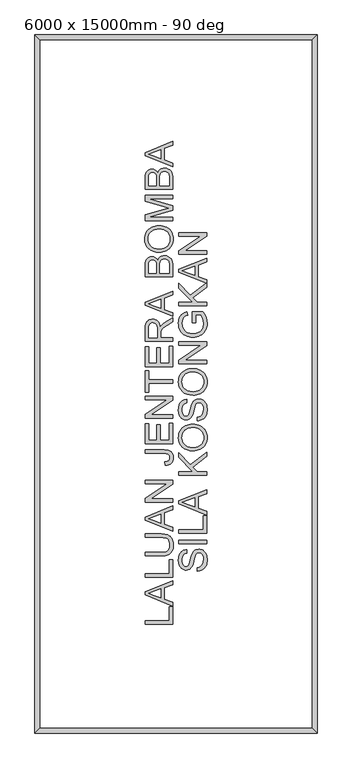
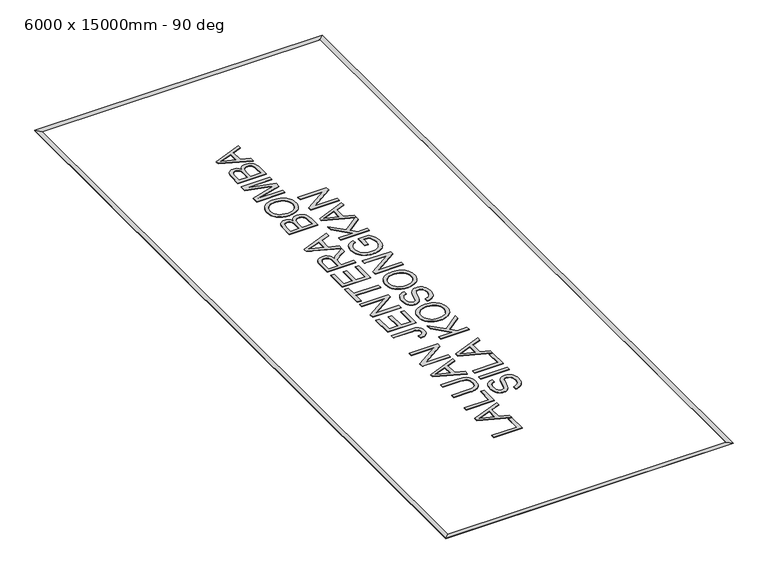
"""IFC4 building model written with IfcOpenShell, lengths in millimetres: proxy geometry, FAPS-Perpendicular : 6000 x 15000mm - 90 deg."""

from ifc_helpers import new_model, si_unit, origin, origin_with_axes, place, context, project, spatial, polyline, outline, extrude, faceted_brep, source, transform, mapped, element, save


def proxy_6000_x_15000mm_90_deg_22f1d21b(model_context):
    return source(origin(), model_context, "Body", "SolidModel", [
        extrude(outline(polyline([(2934.0755465, -12693.9051607), (2331.3376856, -12693.9051607), (2331.3376856, -12618.5629281), (2858.7333139, -12618.5629281), (2858.7333139, -12317.1939976), (2934.0755465, -12317.1939976), (2934.0755465, -12693.9051607)])), origin_with_axes(), (0.0, 0.0, 1.0), 10.0),
        extrude(outline(polyline([(2934.0755465, -12302.6258706), (2331.3376856, -12062.0310458), (2331.3376856, -11997.8724258), (2934.0755465, -11757.277601), (2934.0755465, -11836.8872647), (2745.7199649, -11905.901927), (2745.7199649, -12154.1486974), (2934.0755465, -12223.0162069), (2934.0755465, -12302.6258706)]), holes=[polyline([(2670.3777323, -12126.4839713), (2670.3777323, -11933.4195003), (2522.1948647, -11987.7188828), (2406.6799182, -12029.9517358), (2509.2454184, -12067.4756993), (2670.3777323, -12126.4839713)])]), origin_with_axes(), (0.0, 0.0, 1.0), 10.0),
        extrude(outline(polyline([(2934.0755465, -11676.7850204), (2331.3376856, -11676.7850204), (2331.3376856, -11601.4427878), (2858.7333139, -11601.4427878), (2858.7333139, -11300.0738574), (2934.0755465, -11300.0738574), (2934.0755465, -11676.7850204)])), origin_with_axes(), (0.0, 0.0, 1.0), 10.0),
        extrude(outline(polyline([(2331.3376856, -10819.7671245), (2331.3376856, -10744.4248919), (2679.0597474, -10744.4248919), (2760.490427, -10749.5384516), (2794.1838193, -10755.9304013), (2823.1959131, -10764.8791308), (2848.625756, -10777.1571924), (2871.5723955, -10793.5371382), (2892.0358315, -10814.0189683), (2910.016064, -10838.6026826), (2924.6623659, -10867.3158724), (2935.1240102, -10900.1861286), (2941.4009967, -10937.2134514), (2943.4933255, -10978.3978408), (2941.6723097, -11018.5659561), (2936.209262, -11054.8989017), (2927.1041827, -11087.3966774), (2914.3570715, -11116.0592834), (2898.1564682, -11140.8913181), (2878.6909121, -11161.89738), (2855.9604033, -11179.0774692), (2829.9649418, -11192.4315856), (2799.8124138, -11202.4425744), (2764.6107054, -11209.5932807), (2724.3598166, -11213.8837044), (2679.0597474, -11215.3138457), (2331.3376856, -11215.3138457), (2331.3376856, -11139.9716131), (2676.410997, -11139.9716131), (2744.1196783, -11136.2560049), (2791.2637559, -11125.1091805), (2808.6415817, -11116.3443919), (2823.913283, -11104.9124589), (2837.0788599, -11090.8133815), (2848.1383124, -11074.0471595), (2863.1478978, -11033.8008693), (2868.1510929, -10985.4611751), (2865.6770865, -10943.9364949), (2858.2550673, -10908.8313555), (2845.8850352, -10880.1457569), (2828.5669902, -10857.8796992), (2804.2132022, -10841.2054477), (2770.7359406, -10829.2952682), (2728.1352056, -10822.1491604), (2676.410997, -10819.7671245), (2331.3376856, -10819.7671245)])), origin_with_axes(), (0.0, 0.0, 1.0), 10.0),
        extrude(outline(polyline([(2934.0755465, -10682.7678695), (2331.3376856, -10442.1730446), (2331.3376856, -10378.0144247), (2934.0755465, -10137.4195998), (2934.0755465, -10217.0292636), (2745.7199649, -10286.0439259), (2745.7199649, -10534.2906962), (2934.0755465, -10603.1582057), (2934.0755465, -10682.7678695)]), holes=[polyline([(2670.3777323, -10506.6259702), (2670.3777323, -10313.5614991), (2522.1948647, -10367.8608816), (2406.6799182, -10410.0937346), (2509.2454184, -10447.6176982), (2670.3777323, -10506.6259702)])]), origin_with_axes(), (0.0, 0.0, 1.0), 10.0),
        extrude(outline(polyline([(2934.0755465, -10056.9270193), (2331.3376856, -10056.9270193), (2331.3376856, -9976.2872859), (2808.8485153, -9661.3802981), (2331.3376856, -9661.3802981), (2331.3376856, -9586.0380655), (2934.0755465, -9586.0380655), (2934.0755465, -9666.6777988), (2456.4175639, -9981.5847867), (2934.0755465, -9981.5847867), (2934.0755465, -10056.9270193)])), origin_with_axes(), (0.0, 0.0, 1.0), 10.0),
        extrude(outline(polyline([(2764.8498287, -9256.4157978), (2755.137744, -9181.0735652), (2785.0925355, -9178.4156177), (2809.9153731, -9173.2376787), (2829.6062569, -9165.5397479), (2844.1651868, -9155.3218255), (2854.6590208, -9142.7402613), (2862.1546164, -9127.9514051), (2866.6519738, -9110.9552569), (2868.1510929, -9091.7518167), (2864.7481845, -9063.9215438), (2854.5394591, -9040.174761), (2838.4630159, -9021.8542376), (2817.456954, -9010.302743), (2787.0515071, -9004.1775078), (2742.776909, -9002.1357627), (2331.3376856, -9002.1357627), (2331.3376856, -8926.7935301), (2741.4525338, -8926.7935301), (2808.5358156, -8931.3368727), (2835.6625142, -8937.016051), (2858.5125847, -8944.9669007), (2877.9965348, -8955.3871582), (2895.0248727, -8968.4745601), (2909.5975982, -8984.2291066), (2921.7147114, -9002.6507975), (2938.048672, -9045.5642322), (2943.4933255, -9095.2834839), (2940.6836268, -9132.4119742), (2932.2545306, -9164.9235456), (2918.2060369, -9192.8181979), (2898.5381457, -9216.0959311), (2873.3244335, -9234.3428781), (2842.6384766, -9247.1451715), (2806.480275, -9254.5028114), (2764.8498287, -9256.4157978)])), origin_with_axes(), (0.0, 0.0, 1.0), 10.0),
        extrude(outline(polyline([(2934.0755465, -8794.944623), (2331.3376856, -8794.944623), (2331.3376856, -8361.7267855), (2406.6799182, -8361.7267855), (2406.6799182, -8719.6023904), (2585.6177206, -8719.6023904), (2585.6177206, -8380.5623437), (2660.9599532, -8380.5623437), (2660.9599532, -8719.6023904), (2858.7333139, -8719.6023904), (2858.7333139, -8352.3090064), (2934.0755465, -8352.3090064), (2934.0755465, -8794.944623)])), origin_with_axes(), (0.0, 0.0, 1.0), 10.0),
        extrude(outline(polyline([(2934.0755465, -8239.2956575), (2331.3376856, -8239.2956575), (2331.3376856, -8158.6559242), (2808.8485153, -7843.7489363), (2331.3376856, -7843.7489363), (2331.3376856, -7768.4067037), (2934.0755465, -7768.4067037), (2934.0755465, -7849.046437), (2456.4175639, -8163.9534249), (2934.0755465, -8163.9534249), (2934.0755465, -8239.2956575)])), origin_with_axes(), (0.0, 0.0, 1.0), 10.0),
        extrude(outline(polyline([(2934.0755465, -7485.8733314), (2406.6799182, -7485.8733314), (2406.6799182, -7683.646692), (2331.3376856, -7683.646692), (2331.3376856, -7212.7577382), (2406.6799182, -7212.7577382), (2406.6799182, -7410.5310988), (2934.0755465, -7410.5310988), (2934.0755465, -7485.8733314)])), origin_with_axes(), (0.0, 0.0, 1.0), 10.0),
        extrude(outline(polyline([(2934.0755465, -7127.9977265), (2331.3376856, -7127.9977265), (2331.3376856, -6694.779889), (2406.6799182, -6694.779889), (2406.6799182, -7052.6554939), (2585.6177206, -7052.6554939), (2585.6177206, -6713.6154471), (2660.9599532, -6713.6154471), (2660.9599532, -7052.6554939), (2858.7333139, -7052.6554939), (2858.7333139, -6685.3621099), (2934.0755465, -6685.3621099), (2934.0755465, -7127.9977265)])), origin_with_axes(), (0.0, 0.0, 1.0), 10.0),
        extrude(outline(polyline([(2934.0755465, -6572.348761), (2331.3376856, -6572.348761), (2331.3376856, -6312.6240724), (2335.4027816, -6242.8184638), (2347.5980698, -6192.0323543), (2357.2917603, -6172.4334411), (2370.1124479, -6154.913061), (2386.0601323, -6139.4712143), (2405.1348138, -6126.1079008), (2426.3110211, -6115.3243598), (2448.5632833, -6107.6218306), (2471.8916003, -6103.000313), (2496.2959722, -6101.4598071), (2527.2532421, -6104.0119885), (2555.6721262, -6111.6685325), (2581.5526246, -6124.4294392), (2604.8947372, -6142.2947086), (2624.953503, -6165.4942669), (2640.9839609, -6194.2580404), (2652.986111, -6228.5860291), (2660.9599532, -6268.4782329), (2677.1835492, -6243.6461983), (2693.186416, -6225.6567687), (2729.7906745, -6194.7914693), (2770.7359406, -6164.5883575), (2934.0755465, -6064.0829964), (2934.0755465, -6151.6389113), (2809.1428209, -6230.0713526), (2726.4429484, -6286.7251799), (2702.3282836, -6307.7864241), (2687.3738805, -6326.5300118), (2673.0264827, -6362.3617181), (2670.3777323, -6406.0660991), (2670.3777323, -6497.0065284), (2934.0755465, -6497.0065284), (2934.0755465, -6572.348761)]), holes=[polyline([(2595.0354997, -6497.0065284), (2595.0354997, -6328.3694218), (2592.3683552, -6279.9377571), (2584.3669218, -6242.3586113), (2570.4977706, -6214.0684859), (2550.2274727, -6193.5038823), (2525.7081377, -6180.9775004), (2499.0918754, -6176.8020397), (2479.8240559, -6178.793201), (2462.340464, -6184.7666849), (2446.6410999, -6194.7224914), (2432.7259634, -6208.6606205), (2421.3308186, -6226.902969), (2413.1914295, -6249.7714335), (2408.307796, -6277.2660141), (2406.6799182, -6309.3867108), (2406.6799182, -6497.0065284), (2595.0354997, -6497.0065284)])]), origin_with_axes(), (0.0, 0.0, 1.0), 10.0),
        extrude(outline(polyline([(2934.0755465, -6039.8027847), (2331.3376856, -5799.2079599), (2331.3376856, -5735.0493399), (2934.0755465, -5494.4545151), (2934.0755465, -5574.0641789), (2745.7199649, -5643.0788411), (2745.7199649, -5891.3256115), (2934.0755465, -5960.193121), (2934.0755465, -6039.8027847)]), holes=[polyline([(2670.3777323, -5863.6608855), (2670.3777323, -5670.5964144), (2522.1948647, -5724.8957969), (2406.6799182, -5767.1286499), (2509.2454184, -5804.6526134), (2670.3777323, -5863.6608855)])]), origin_with_axes(), (0.0, 0.0, 1.0), 10.0),
        extrude(outline(polyline([(2934.0755465, -5178.5174576), (2331.3376856, -5178.5174576), (2331.3376856, -4948.5176343), (2335.7706636, -4885.2603252), (2349.0695977, -4835.8721673), (2359.1265718, -4815.7950074), (2371.5655817, -4798.01711), (2386.3866276, -4782.5384751), (2403.5897094, -4769.3591026), (2441.2608257, -4751.3144907), (2480.6977756, -4745.2996201), (2516.9893344, -4750.3579975), (2551.1103895, -4765.5331299), (2580.9640134, -4790.9353816), (2604.4532788, -4826.6751174), (2614.1469694, -4803.9354116), (2626.7469277, -4783.9824119), (2642.2531538, -4766.8161183), (2660.6656476, -4752.4365308), (2681.4233892, -4741.0735757), (2703.9653585, -4732.9571792), (2728.2915554, -4728.0873413), (2754.40198, -4726.464062), (2796.432498, -4730.89704), (2835.4095954, -4744.1959741), (2868.5557631, -4764.0432078), (2893.0934922, -4788.1210844), (2910.8621926, -4817.6068263), (2923.7012742, -4853.6776559), (2931.4819784, -4897.5107956), (2934.0755465, -4950.2834678), (2934.0755465, -5178.5174576)]), holes=[polyline([(2576.1999416, -5103.175225), (2576.1999416, -4965.5873588), (2574.5812608, -4917.4683939), (2569.7252184, -4885.2419311), (2558.5599999, -4857.1173526), (2541.8397632, -4836.9022369), (2519.8220258, -4824.7069488), (2492.7643051, -4820.6418527), (2466.4975306, -4824.4310373), (2443.6152705, -4835.7985909), (2425.7545996, -4854.2294789), (2414.5525929, -4879.2086664), (2408.6480869, -4917.5419703), (2406.6799182, -4976.0352075), (2406.6799182, -5103.175225), (2576.1999416, -5103.175225)]), polyline([(2858.7333139, -5103.175225), (2858.7333139, -4948.664787), (2855.7902579, -4892.7467238), (2849.2603525, -4866.792649), (2839.3827209, -4845.4370992), (2825.2376582, -4828.073069), (2805.9054593, -4814.0935532), (2782.2506471, -4804.8781092), (2755.137744, -4801.8062946), (2723.6470452, -4805.4115381), (2696.5709304, -4816.2272688), (2675.3993216, -4835.1180092), (2661.6221408, -4862.9482822), (2654.0621658, -4902.366838), (2651.5421742, -4956.022427), (2651.5421742, -5103.175225), (2858.7333139, -5103.175225)])]), origin_with_axes(), (0.0, 0.0, 1.0), 10.0),
        extrude(outline(polyline([(2640.6528671, -4651.1218294), (2569.9551447, -4646.1002401), (2507.3692203, -4631.0354724), (2452.8950938, -4605.9275262), (2428.6999549, -4589.6073612), (2406.5327654, -4570.7764016), (2369.5146396, -4527.6882229), (2343.0731212, -4478.7691146), (2327.2082102, -4424.0190767), (2321.9199065, -4363.4381091), (2324.40311, -4322.8883162), (2331.8527204, -4284.3802684), (2344.2687377, -4247.9139656), (2361.651162, -4213.4894079), (2383.4757613, -4182.0722855), (2409.2183039, -4154.6282887), (2438.8787898, -4131.1574174), (2472.4572189, -4111.6596716), (2509.1902361, -4096.3373865), (2548.3144863, -4085.3928972), (2589.8299695, -4078.8262036), (2633.7366856, -4076.6373057), (2678.2228159, -4078.9411667), (2720.2993191, -4085.8527497), (2759.9661952, -4097.3720546), (2797.2234443, -4113.4990816), (2831.0869819, -4133.852153), (2860.5727238, -4158.0495912), (2885.68067, -4186.0913963), (2906.4108204, -4217.9775682), (2922.6344164, -4252.4527097), (2934.2226993, -4288.2614234), (2941.175669, -4325.4037093), (2943.4933255, -4363.8795675), (2940.9319471, -4405.1375333), (2933.247812, -4444.1514189), (2920.44092, -4480.9212243), (2902.5112713, -4515.4469495), (2880.153243, -4546.8272837), (2854.0612125, -4574.160916), (2824.2351798, -4597.4478463), (2790.6751447, -4616.6880746), (2754.7284753, -4631.7528423), (2717.7425392, -4642.5133907), (2679.7173365, -4648.9697197), (2640.6528671, -4651.1218294)]), holes=[polyline([(2641.3886311, -4575.7795967), (2691.337809, -4572.0134048), (2735.6767865, -4560.714829), (2774.4055635, -4541.8838694), (2807.5241401, -4515.5205259), (2834.048432, -4483.4734056), (2852.9943547, -4447.5911155), (2864.3619084, -4407.8736556), (2868.1510929, -4364.3210259), (2864.3251202, -4320.0234352), (2852.8472019, -4279.8369257), (2833.7173382, -4243.7614976), (2806.9355289, -4211.7971507), (2773.1179765, -4185.6269453), (2732.8808833, -4166.9339414), (2686.2242493, -4155.7181391), (2633.1480744, -4151.9795383), (2598.6683344, -4153.579825), (2566.4510687, -4158.380685), (2536.4962772, -4166.3821184), (2508.80396, -4177.5841252), (2483.7374006, -4191.8625451), (2461.6598824, -4209.093218), (2442.5714053, -4229.276144), (2426.4719695, -4252.411323), (2413.6926687, -4277.7813851), (2404.5645967, -4304.6689604), (2399.0877535, -4333.0740489), (2397.2621391, -4362.9966507), (2400.7800107, -4405.0363657), (2411.3336254, -4444.0410543), (2428.9229833, -4480.0107163), (2453.5480844, -4512.945352), (2486.395348, -4540.4353341), (2528.6511937, -4560.0710355), (2580.3156214, -4571.8524564), (2641.3886311, -4575.7795967)])]), origin_with_axes(), (0.0, 0.0, 1.0), 10.0),
        extrude(outline(polyline([(2934.0755465, -3973.0417358), (2331.3376856, -3973.0417358), (2331.3376856, -3843.4001207), (2756.1678136, -3720.086076), (2844.9009508, -3695.2172531), (2748.8101737, -3668.288291), (2331.3376856, -3547.0343854), (2331.3376856, -3417.3927703), (2934.0755465, -3417.3927703), (2934.0755465, -3492.7350029), (2406.6799182, -3492.7350029), (2934.0755465, -3644.1552322), (2934.0755465, -3746.279274), (2406.6799182, -3897.6995032), (2934.0755465, -3897.6995032), (2934.0755465, -3973.0417358)])), origin_with_axes(), (0.0, 0.0, 1.0), 10.0),
        extrude(outline(polyline([(2934.0755465, -3285.5438633), (2331.3376856, -3285.5438633), (2331.3376856, -3055.5440399), (2335.7706636, -2992.2867308), (2349.0695977, -2942.8985729), (2359.1265718, -2922.8214131), (2371.5655817, -2905.0435156), (2386.3866276, -2889.5648807), (2403.5897094, -2876.3855082), (2441.2608257, -2858.3408964), (2480.6977756, -2852.3260257), (2516.9893344, -2857.3844032), (2551.1103895, -2872.5595355), (2580.9640134, -2897.9617872), (2604.4532788, -2933.7015231), (2614.1469694, -2910.9618172), (2626.7469277, -2891.0088175), (2642.2531538, -2873.8425239), (2660.6656476, -2859.4629364), (2681.4233892, -2848.0999813), (2703.9653585, -2839.9835848), (2728.2915554, -2835.1137469), (2754.40198, -2833.4904676), (2796.432498, -2837.9234456), (2835.4095954, -2851.2223797), (2868.5557631, -2871.0696134), (2893.0934922, -2895.14749), (2910.8621926, -2924.6332319), (2923.7012742, -2960.7040615), (2931.4819784, -3004.5372012), (2934.0755465, -3057.3098734), (2934.0755465, -3285.5438633)]), holes=[polyline([(2576.1999416, -3210.2016306), (2576.1999416, -3072.6137644), (2574.5812608, -3024.4947995), (2569.7252184, -2992.2683367), (2558.5599999, -2964.1437582), (2541.8397632, -2943.9286425), (2519.8220258, -2931.7333544), (2492.7643051, -2927.6682583), (2466.4975306, -2931.4574429), (2443.6152705, -2942.8249965), (2425.7545996, -2961.2558845), (2414.5525929, -2986.235072), (2408.6480869, -3024.5683759), (2406.6799182, -3083.0616131), (2406.6799182, -3210.2016306), (2576.1999416, -3210.2016306)]), polyline([(2858.7333139, -3210.2016306), (2858.7333139, -3055.6911927), (2855.7902579, -2999.7731294), (2849.2603525, -2973.8190546), (2839.3827209, -2952.4635048), (2825.2376582, -2935.0994746), (2805.9054593, -2921.1199588), (2782.2506471, -2911.9045149), (2755.137744, -2908.8327002), (2723.6470452, -2912.4379437), (2696.5709304, -2923.2536744), (2675.3993216, -2942.1444149), (2661.6221408, -2969.9746878), (2654.0621658, -3009.3932436), (2651.5421742, -3063.0488326), (2651.5421742, -3210.2016306), (2858.7333139, -3210.2016306)])]), origin_with_axes(), (0.0, 0.0, 1.0), 10.0),
        extrude(outline(polyline([(2934.0755465, -2800.0867824), (2331.3376856, -2559.4919576), (2331.3376856, -2495.3333376), (2934.0755465, -2254.7385128), (2934.0755465, -2334.3481765), (2745.7199649, -2403.3628388), (2745.7199649, -2651.6096092), (2934.0755465, -2720.4771187), (2934.0755465, -2800.0867824)]), holes=[polyline([(2670.3777323, -2623.9448831), (2670.3777323, -2430.8804121), (2522.1948647, -2485.1797945), (2406.6799182, -2527.4126476), (2509.2454184, -2564.9366111), (2670.3777323, -2623.9448831)])]), origin_with_axes(), (0.0, 0.0, 1.0), 10.0),
        extrude(outline(polyline([(3458.7333139, -11544.9361134), (3458.7333139, -11469.5938808), (3500.5431026, -11460.9486539), (3534.1491229, -11445.3136691), (3560.8205675, -11420.9230928), (3581.8266294, -11386.0110915), (3595.4566574, -11343.33678), (3600.0, -11295.6592734), (3596.5603033, -11253.6839378), (3586.2412134, -11216.9325265), (3569.9072528, -11187.152479), (3548.4229443, -11166.0912347), (3523.7564565, -11153.5648528), (3497.8759581, -11149.3893922), (3472.6576474, -11152.5163891), (3450.8606392, -11161.89738), (3432.2642043, -11180.9536673), (3416.6476136, -11213.1065537), (3387.8792416, -11322.8089647), (3368.8413483, -11394.8218652), (3350.7231601, -11440.8990851), (3325.3760906, -11478.4046545), (3294.657944, -11504.9841287), (3259.2309079, -11520.8214486), (3219.7571698, -11526.1005552), (3197.3209666, -11524.4680789), (3175.6297245, -11519.5706498), (3154.6834434, -11511.408268), (3134.4821233, -11499.9809336), (3115.8489002, -11485.4174051), (3099.6069102, -11467.8464413), (3085.756153, -11447.2680422), (3074.2966289, -11423.6822078), (3058.9007674, -11370.6704123), (3053.7688136, -11311.993234), (3059.1398907, -11248.4232253), (3075.2531221, -11192.7994676), (3087.2552722, -11168.4640736), (3101.7774139, -11147.1085238), (3118.8195474, -11128.7328181), (3138.3816725, -11113.3369566), (3159.8935721, -11101.0405009), (3182.7850293, -11091.9630127), (3207.0560439, -11086.1044919), (3232.706616, -11083.4649386), (3232.706616, -11158.8071712), (3208.6655276, -11163.8471546), (3187.7514362, -11172.6395342), (3169.9643417, -11185.1843103), (3155.3042442, -11201.4814827), (3143.8447201, -11221.8345541), (3135.6593457, -11246.5470271), (3130.7481211, -11275.6189017), (3129.1110462, -11309.0501781), (3130.729727, -11343.5483122), (3135.5857693, -11373.024857), (3143.6791732, -11397.4798127), (3155.0099386, -11416.913179), (3168.6307695, -11431.7204294), (3183.5943697, -11442.2970367), (3199.9007391, -11448.6430011), (3217.5498778, -11450.7583226), (3232.7342072, -11449.2592035), (3246.5021908, -11444.7618461), (3258.8538288, -11437.2662504), (3269.7891211, -11426.7724165), (3280.1449993, -11410.2545149), (3290.6112421, -11384.2452579), (3311.8748214, -11303.7526773), (3332.0715429, -11220.6849228), (3349.6930905, -11170.4322423), (3377.0267227, -11127.4820193), (3393.0939689, -11110.8767458), (3410.7615017, -11097.5180308), (3429.9373507, -11087.2495246), (3450.5295454, -11079.9148774), (3495.9629718, -11074.0471595), (3519.5304121, -11075.7348182), (3542.4080737, -11080.7977942), (3564.5959565, -11089.2360874), (3586.0940606, -11101.049698), (3606.0700529, -11116.0316922), (3623.6916005, -11133.9751366), (3638.9587033, -11154.8800309), (3651.8713613, -11178.7463754), (3662.1398675, -11204.8797926), (3669.4745148, -11232.5859054), (3675.3422326, -11292.7162175), (3673.76034, -11331.256455), (3669.0146623, -11366.5317398), (3661.1051994, -11398.5420719), (3650.0319513, -11427.2874513), (3635.776524, -11452.9426219), (3618.3205234, -11475.6823278), (3597.6639493, -11495.5065688), (3573.8068019, -11512.415345), (3547.5216334, -11526.0361759), (3519.5809959, -11535.9965809), (3489.9848893, -11542.2965601), (3458.7333139, -11544.9361134)])), origin_with_axes(), (0.0, 0.0, 1.0), 10.0),
        extrude(outline(polyline([(3665.9244535, -10951.6160315), (3063.1865926, -10951.6160315), (3063.1865926, -10876.2737989), (3665.9244535, -10876.2737989), (3665.9244535, -10951.6160315)])), origin_with_axes(), (0.0, 0.0, 1.0), 10.0),
        extrude(outline(polyline([(3665.9244535, -10725.5893337), (3063.1865926, -10725.5893337), (3063.1865926, -10650.2471011), (3590.5822209, -10650.2471011), (3590.5822209, -10348.8781706), (3665.9244535, -10348.8781706), (3665.9244535, -10725.5893337)])), origin_with_axes(), (0.0, 0.0, 1.0), 10.0),
        extrude(outline(polyline([(3665.9244535, -10334.3100436), (3063.1865926, -10093.7152188), (3063.1865926, -10029.5565988), (3665.9244535, -9788.961774), (3665.9244535, -9868.5714377), (3477.568872, -9937.5861), (3477.568872, -10185.8328704), (3665.9244535, -10254.7003799), (3665.9244535, -10334.3100436)]), holes=[polyline([(3402.2266394, -10158.1681443), (3402.2266394, -9965.1036733), (3254.0437717, -10019.4030558), (3138.5288253, -10061.6359088), (3241.0943255, -10099.1598723), (3402.2266394, -10158.1681443)])]), origin_with_axes(), (0.0, 0.0, 1.0), 10.0),
        extrude(outline(polyline([(3665.9244535, -9473.0247165), (3063.1865926, -9473.0247165), (3063.1865926, -9397.6824839), (3358.2279528, -9397.6824839), (3063.1865926, -9088.661608), (3063.1865926, -8983.3002046), (3310.9919046, -9242.7305876), (3665.9244535, -8973.8824255), (3665.9244535, -9066.0000771), (3361.9067727, -9296.1470533), (3458.7333139, -9397.6824839), (3665.9244535, -9397.6824839), (3665.9244535, -9473.0247165)])), origin_with_axes(), (0.0, 0.0, 1.0), 10.0),
        extrude(outline(polyline([(3372.5017742, -8945.6290882), (3301.8040518, -8940.607499), (3239.2181273, -8925.5427313), (3184.7440009, -8900.4347851), (3160.5488619, -8884.1146201), (3138.3816725, -8865.2836605), (3101.3635467, -8822.1954818), (3074.9220283, -8773.2763735), (3059.0571172, -8718.5263356), (3053.7688136, -8657.945368), (3056.252017, -8617.3955751), (3063.7016274, -8578.8875273), (3076.1176448, -8542.4212245), (3093.500069, -8507.9966668), (3115.3246684, -8476.5795444), (3141.067211, -8449.1355476), (3170.7276969, -8425.6646763), (3204.306126, -8406.1669305), (3241.0391432, -8390.8446454), (3280.1633934, -8379.9001561), (3321.6788765, -8373.3334624), (3365.5855927, -8371.1445646), (3410.0717229, -8373.4484256), (3452.1482261, -8380.3600086), (3491.8151023, -8391.8793135), (3529.0723513, -8408.0063405), (3562.935889, -8428.3594119), (3592.4216309, -8452.5568501), (3617.5295771, -8480.5986552), (3638.2597275, -8512.4848271), (3654.4833235, -8546.9599686), (3666.0716063, -8582.7686823), (3673.024576, -8619.9109682), (3675.3422326, -8658.3868264), (3672.7808542, -8699.6447922), (3665.096719, -8738.6586778), (3652.2898271, -8775.4284832), (3634.3601783, -8809.9542084), (3612.0021501, -8841.3345426), (3585.9101196, -8868.6681749), (3556.0840868, -8891.9551052), (3522.5240518, -8911.1953335), (3486.5773824, -8926.2601012), (3449.5914463, -8937.0206496), (3411.5662435, -8943.4769786), (3372.5017742, -8945.6290882)]), holes=[polyline([(3373.2375382, -8870.2868556), (3423.1867161, -8866.5206637), (3467.5256935, -8855.2220879), (3506.2544706, -8836.3911283), (3539.3730472, -8810.0277848), (3565.897339, -8777.9806645), (3584.8432618, -8742.0983744), (3596.2108154, -8702.3809145), (3600.0, -8658.8282848), (3596.1740273, -8614.5306941), (3584.696109, -8574.3441846), (3565.5662453, -8538.2687565), (3538.784436, -8506.3044096), (3504.9668836, -8480.1342042), (3464.7297904, -8461.4412003), (3418.0731563, -8450.225398), (3364.9969815, -8446.4867972), (3330.5172415, -8448.0870839), (3298.2999758, -8452.8879439), (3268.3451843, -8460.8893773), (3240.6528671, -8472.0913841), (3215.5863077, -8486.369804), (3193.5087894, -8503.6004769), (3174.4203124, -8523.7834029), (3158.3208766, -8546.9185819), (3145.5415758, -8572.288644), (3136.4135038, -8599.1762193), (3130.9366606, -8627.5813078), (3129.1110462, -8657.5039096), (3132.6289178, -8699.5436246), (3143.1825325, -8738.5483132), (3160.7718904, -8774.5179752), (3185.3969914, -8807.4526109), (3218.2442551, -8834.9425929), (3260.5001008, -8854.5782944), (3312.1645284, -8866.3597153), (3373.2375382, -8870.2868556)])]), origin_with_axes(), (0.0, 0.0, 1.0), 10.0),
        extrude(outline(polyline([(3458.7333139, -8295.802332), (3458.7333139, -8220.4600994), (3500.5431026, -8211.8148725), (3534.1491229, -8196.1798877), (3560.8205675, -8171.7893114), (3581.8266294, -8136.8773101), (3595.4566574, -8094.2029986), (3600.0, -8046.525492), (3596.5603033, -8004.5501564), (3586.2412134, -7967.7987451), (3569.9072528, -7938.0186976), (3548.4229443, -7916.9574533), (3523.7564565, -7904.4310714), (3497.8759581, -7900.2556108), (3472.6576474, -7903.3826077), (3450.8606392, -7912.7635986), (3432.2642043, -7931.8198859), (3416.6476136, -7963.9727723), (3387.8792416, -8073.6751833), (3368.8413483, -8145.6880838), (3350.7231601, -8191.7653037), (3325.3760906, -8229.2708731), (3294.657944, -8255.8503473), (3259.2309079, -8271.6876672), (3219.7571698, -8276.9667738), (3197.3209666, -8275.3342975), (3175.6297245, -8270.4368684), (3154.6834434, -8262.2744866), (3134.4821233, -8250.8471522), (3115.8489002, -8236.2836237), (3099.6069102, -8218.7126599), (3085.756153, -8198.1342608), (3074.2966289, -8174.5484264), (3058.9007674, -8121.5366309), (3053.7688136, -8062.8594526), (3059.1398907, -7999.2894439), (3075.2531221, -7943.6656862), (3087.2552722, -7919.3302922), (3101.7774139, -7897.9747424), (3118.8195474, -7879.5990367), (3138.3816725, -7864.2031752), (3159.8935721, -7851.9067195), (3182.7850293, -7842.8292313), (3207.0560439, -7836.9707105), (3232.706616, -7834.3311572), (3232.706616, -7909.6733898), (3208.6655276, -7914.7133732), (3187.7514362, -7923.5057528), (3169.9643417, -7936.0505289), (3155.3042442, -7952.3477013), (3143.8447201, -7972.7007727), (3135.6593457, -7997.4132457), (3130.7481211, -8026.4851203), (3129.1110462, -8059.9163967), (3130.729727, -8094.4145308), (3135.5857693, -8123.8910756), (3143.6791732, -8148.3460312), (3155.0099386, -8167.7793976), (3168.6307695, -8182.586648), (3183.5943697, -8193.1632553), (3199.9007391, -8199.5092197), (3217.5498778, -8201.6245412), (3232.7342072, -8200.1254221), (3246.5021908, -8195.6280647), (3258.8538288, -8188.132469), (3269.7891211, -8177.6386351), (3280.1449993, -8161.1207335), (3290.6112421, -8135.1114765), (3311.8748214, -8054.6188959), (3332.0715429, -7971.5511414), (3349.6930905, -7921.2984609), (3377.0267227, -7878.3482379), (3393.0939689, -7861.7429644), (3410.7615017, -7848.3842494), (3429.9373507, -7838.1157432), (3450.5295454, -7830.781096), (3495.9629718, -7824.9133781), (3519.5304121, -7826.6010368), (3542.4080737, -7831.6640128), (3564.5959565, -7840.102306), (3586.0940606, -7851.9159166), (3606.0700529, -7866.8979108), (3623.6916005, -7884.8413552), (3638.9587033, -7905.7462495), (3651.8713613, -7929.612594), (3662.1398675, -7955.7460112), (3669.4745148, -7983.452124), (3675.3422326, -8043.5824361), (3673.76034, -8082.1226736), (3669.0146623, -8117.3979584), (3661.1051994, -8149.4082905), (3650.0319513, -8178.1536699), (3635.776524, -8203.8088405), (3618.3205234, -8226.5485464), (3597.6639493, -8246.3727874), (3573.8068019, -8263.2815636), (3547.5216334, -8276.9023945), (3519.5809959, -8286.8627995), (3489.9848893, -8293.1627787), (3458.7333139, -8295.802332)])), origin_with_axes(), (0.0, 0.0, 1.0), 10.0),
        extrude(outline(polyline([(3372.5017742, -7740.1533665), (3301.8040518, -7735.1317772), (3239.2181273, -7720.0670095), (3184.7440009, -7694.9590633), (3160.5488619, -7678.6388983), (3138.3816725, -7659.8079387), (3101.3635467, -7616.71976), (3074.9220283, -7567.8006517), (3059.0571172, -7513.0506138), (3053.7688136, -7452.4696462), (3056.252017, -7411.9198533), (3063.7016274, -7373.4118055), (3076.1176448, -7336.9455027), (3093.500069, -7302.520945), (3115.3246684, -7271.1038226), (3141.067211, -7243.6598258), (3170.7276969, -7220.1889545), (3204.306126, -7200.6912087), (3241.0391432, -7185.3689236), (3280.1633934, -7174.4244343), (3321.6788765, -7167.8577407), (3365.5855927, -7165.6688428), (3410.0717229, -7167.9727038), (3452.1482261, -7174.8842868), (3491.8151023, -7186.4035917), (3529.0723513, -7202.5306187), (3562.935889, -7222.8836901), (3592.4216309, -7247.0811283), (3617.5295771, -7275.1229334), (3638.2597275, -7307.0091053), (3654.4833235, -7341.4842468), (3666.0716063, -7377.2929605), (3673.024576, -7414.4352464), (3675.3422326, -7452.9111046), (3672.7808542, -7494.1690704), (3665.096719, -7533.182956), (3652.2898271, -7569.9527614), (3634.3601783, -7604.4784866), (3612.0021501, -7635.8588208), (3585.9101196, -7663.1924531), (3556.0840868, -7686.4793834), (3522.5240518, -7705.7196117), (3486.5773824, -7720.7843794), (3449.5914463, -7731.5449278), (3411.5662435, -7738.0012568), (3372.5017742, -7740.1533665)]), holes=[polyline([(3373.2375382, -7664.8111338), (3423.1867161, -7661.0449419), (3467.5256935, -7649.7463661), (3506.2544706, -7630.9154065), (3539.3730472, -7604.552063), (3565.897339, -7572.5049427), (3584.8432618, -7536.6226526), (3596.2108154, -7496.9051927), (3600.0, -7453.352563), (3596.1740273, -7409.0549723), (3584.696109, -7368.8684628), (3565.5662453, -7332.7930347), (3538.784436, -7300.8286878), (3504.9668836, -7274.6584824), (3464.7297904, -7255.9654785), (3418.0731563, -7244.7496762), (3364.9969815, -7241.0110754), (3330.5172415, -7242.6113621), (3298.2999758, -7247.4122221), (3268.3451843, -7255.4136555), (3240.6528671, -7266.6156623), (3215.5863077, -7280.8940822), (3193.5087894, -7298.1247551), (3174.4203124, -7318.3076811), (3158.3208766, -7341.4428601), (3145.5415758, -7366.8129222), (3136.4135038, -7393.7004975), (3130.9366606, -7422.105586), (3129.1110462, -7452.0281878), (3132.6289178, -7494.0679028), (3143.1825325, -7533.0725914), (3160.7718904, -7569.0422534), (3185.3969914, -7601.9768891), (3218.2442551, -7629.4668712), (3260.5001008, -7649.1025726), (3312.1645284, -7660.8839935), (3373.2375382, -7664.8111338)])]), origin_with_axes(), (0.0, 0.0, 1.0), 10.0),
        extrude(outline(polyline([(3665.9244535, -7062.0732729), (3063.1865926, -7062.0732729), (3063.1865926, -6981.4335396), (3540.6974224, -6666.5265517), (3063.1865926, -6666.5265517), (3063.1865926, -6591.1843191), (3665.9244535, -6591.1843191), (3665.9244535, -6671.8240525), (3188.266471, -6986.7310403), (3665.9244535, -6986.7310403), (3665.9244535, -7062.0732729)])), origin_with_axes(), (0.0, 0.0, 1.0), 10.0),
        extrude(outline(polyline([(3430.4799766, -6176.8020397), (3355.137744, -6176.8020397), (3355.137744, -5931.9397838), (3580.4286779, -5931.9397838), (3621.8154023, -5991.4446965), (3651.5034793, -6052.8258074), (3669.3825443, -6115.9359636), (3675.3422326, -6180.6280125), (3672.9739923, -6223.9047307), (3665.8692712, -6265.1489009), (3654.0280695, -6304.3605231), (3637.4503871, -6341.5395972), (3616.3845444, -6375.4859083), (3591.0788616, -6404.9992414), (3561.5333389, -6430.0795964), (3527.7479761, -6450.7269734), (3490.8034268, -6466.8540003), (3451.7803441, -6478.3733053), (3410.6787282, -6485.2848883), (3367.498579, -6487.5887493), (3324.3138313, -6485.2940853), (3282.6098087, -6478.4100935), (3242.386511, -6466.9367738), (3203.6439384, -6450.8741262), (3168.083545, -6430.5072592), (3137.4067852, -6406.1212814), (3111.6136588, -6377.7161929), (3090.7041659, -6345.2919935), (3074.5449492, -6309.5522577), (3063.0026516, -6271.2005597), (3056.0772731, -6230.2368995), (3053.7688136, -6186.6612772), (3059.1214966, -6124.5995846), (3075.1795457, -6068.791886), (3086.9333754, -6043.8724793), (3100.7841325, -6021.7949611), (3116.731817, -6002.5593313), (3134.7764289, -5986.1655898), (3178.7935096, -5959.8068449), (3234.4724496, -5940.6217988), (3254.0437717, -6010.0779195), (3214.3309104, -6025.5841456), (3184.3669218, -6044.4380979), (3161.7789673, -6069.3804972), (3144.194208, -6103.1520643), (3132.8818366, -6143.4167487), (3129.1110462, -6187.8384996), (3133.1761422, -6239.8386196), (3145.3714304, -6284.2971587), (3164.1702003, -6321.0485701), (3188.0457418, -6349.9273067), (3215.7656501, -6372.0921969), (3246.0975206, -6388.702069), (3302.9720771, -6406.3604047), (3364.4083703, -6412.2465167), (3402.0289028, -6410.4760846), (3436.458059, -6405.1647883), (3467.695839, -6396.3126277), (3495.7422426, -6383.919603), (3520.4915038, -6368.1466625), (3541.8378566, -6349.1547545), (3559.7813009, -6326.943879), (3574.3218367, -6301.5140361), (3585.5560332, -6274.0562437), (3593.5804592, -6245.7615197), (3598.3951148, -6216.6298643), (3600.0, -6186.6612772), (3595.1623518, -6134.4772162), (3580.6494071, -6083.5807422), (3560.6550206, -6039.3797204), (3539.3730472, -6007.2820164), (3430.4799766, -6007.2820164), (3430.4799766, -6176.8020397)])), origin_with_axes(), (0.0, 0.0, 1.0), 10.0),
        extrude(outline(polyline([(3665.9244535, -5809.5086558), (3063.1865926, -5809.5086558), (3063.1865926, -5734.1664232), (3358.2279528, -5734.1664232), (3063.1865926, -5425.1455472), (3063.1865926, -5319.7841438), (3310.9919046, -5579.2145268), (3665.9244535, -5310.3663647), (3665.9244535, -5402.4840163), (3361.9067727, -5632.6309925), (3458.7333139, -5734.1664232), (3665.9244535, -5734.1664232), (3665.9244535, -5809.5086558)])), origin_with_axes(), (0.0, 0.0, 1.0), 10.0),
        extrude(outline(polyline([(3665.9244535, -5324.0515749), (3063.1865926, -5083.4567501), (3063.1865926, -5019.2981301), (3665.9244535, -4778.7033053), (3665.9244535, -4858.312969), (3477.568872, -4927.3276313), (3477.568872, -5175.5744017), (3665.9244535, -5244.4419112), (3665.9244535, -5324.0515749)]), holes=[polyline([(3402.2266394, -5147.9096756), (3402.2266394, -4954.8452046), (3254.0437717, -5009.1445871), (3138.5288253, -5051.3774401), (3241.0943255, -5088.9014036), (3402.2266394, -5147.9096756)])]), origin_with_axes(), (0.0, 0.0, 1.0), 10.0),
        extrude(outline(polyline([(3665.9244535, -4698.2107247), (3063.1865926, -4698.2107247), (3063.1865926, -4617.5709914), (3540.6974224, -4302.6640035), (3063.1865926, -4302.6640035), (3063.1865926, -4227.3217709), (3665.9244535, -4227.3217709), (3665.9244535, -4307.9615043), (3188.266471, -4622.8684921), (3665.9244535, -4622.8684921), (3665.9244535, -4698.2107247)])), origin_with_axes(), (0.0, 0.0, 1.0), 10.0),
        faceted_brep([(-50.8, -15050.8, 0.0), (50.8, -14949.2, 0.0), (5949.2, -14949.2, 0.0), (6050.8, -15050.8, 0.0), (-50.8, -15050.8, 3.175), (6050.8, -15050.8, 3.175), (50.8, -14949.2, 3.175), (5949.2, -14949.2, 3.175), (5949.2, -50.8, 0.0), (6050.8, 50.8, 0.0), (6050.8, 50.8, 3.175), (5949.2, -50.8, 3.175), (50.8, -50.8, 0.0), (-50.8, 50.8, 0.0), (-50.8, 50.8, 3.175), (50.8, -50.8, 3.175)], [[[0, 1, 2, 3]], [[4, 0, 3, 5]], [[6, 4, 5, 7]], [[1, 6, 7, 2]], [[3, 2, 8, 9]], [[5, 3, 9, 10]], [[7, 5, 10, 11]], [[2, 7, 11, 8]], [[9, 8, 12, 13]], [[10, 9, 13, 14]], [[11, 10, 14, 15]], [[8, 11, 15, 12]], [[13, 12, 1, 0]], [[14, 13, 0, 4]], [[15, 14, 4, 6]], [[12, 15, 6, 1]]]),
    ])


if __name__ == "__main__":
    model = new_model("IFC4")
    model_context = context("Model", 3, world=origin())
    ifc_project = project(units=[si_unit("LENGTHUNIT", "METRE", prefix="MILLI")], contexts=[model_context])
    site = spatial("IfcSite", under=ifc_project)
    building = spatial("IfcBuilding", under=site)
    placement = place(None, origin())
    proxy_6000_x_15000mm_90_deg_shape = proxy_6000_x_15000mm_90_deg_22f1d21b(model_context)
    element("IfcBuildingElementProxy", 1, Name="FAPS-Perpendicular : 6000 x 15000mm - 90 deg", ObjectType="FAPS-Perpendicular : 6000 x 15000mm - 90 deg", at=placement, inside=building, context=model_context, shape_type="MappedRepresentation", body=[
        mapped(proxy_6000_x_15000mm_90_deg_shape, transform((0.0, 0.0, 0.0), x_axis=(1.0, 0.0, 0.0), y_axis=(0.0, 1.0, 0.0), z_axis=(0.0, 0.0, 1.0))),
    ])
    save(model, "model.ifc")
